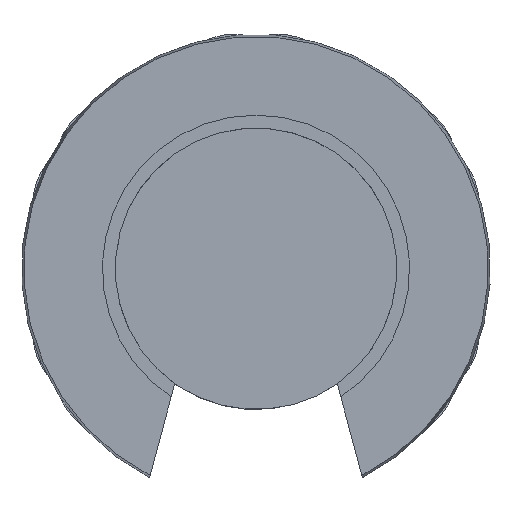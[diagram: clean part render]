
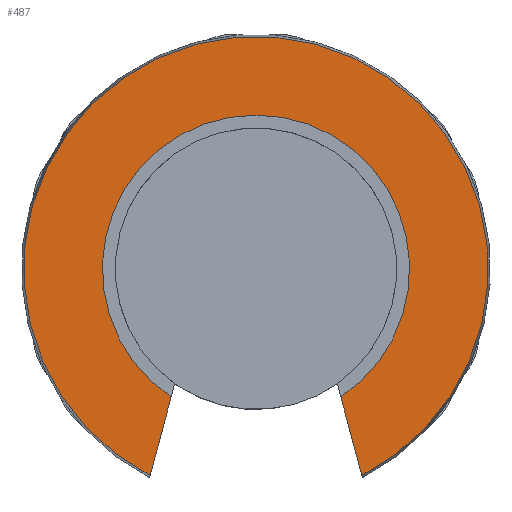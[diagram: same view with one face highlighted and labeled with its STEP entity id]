
A CAD part, front view. The second image highlights one B-rep face of the part: STEP entity #487.
In plain terms, the highlighted planar face has unit normal (0, -1, 0).
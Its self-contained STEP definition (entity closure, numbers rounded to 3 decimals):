
#202=CARTESIAN_POINT('',(7.167,-20.64,-13.997));
#203=VERTEX_POINT('',#202);
#217=CARTESIAN_POINT('',(5.74,-20.64,-8.672));
#218=VERTEX_POINT('',#217);
#219=CARTESIAN_POINT('',(5.74,-20.64,-8.672));
#220=DIRECTION('',(0.259,0.0,-0.966));
#221=VECTOR('',#220,5.512);
#222=LINE('',#219,#221);
#223=EDGE_CURVE('',#218,#203,#222,.T.);
#249=CARTESIAN_POINT('',(-5.74,-20.64,-8.672));
#250=VERTEX_POINT('',#249);
#257=CARTESIAN_POINT('',(-7.167,-20.64,-13.997));
#258=VERTEX_POINT('',#257);
#259=CARTESIAN_POINT('',(-7.167,-20.64,-13.997));
#260=DIRECTION('',(0.259,0.0,0.966));
#261=VECTOR('',#260,5.512);
#262=LINE('',#259,#261);
#263=EDGE_CURVE('',#258,#250,#262,.T.);
#452=CARTESIAN_POINT('',(0.0,-20.64,0.0));
#453=DIRECTION('',(0.0,1.0,0.0));
#454=DIRECTION('',(-1.0,0.0,0.0));
#455=AXIS2_PLACEMENT_3D('',#452,#453,#454);
#456=CIRCLE('',#455,10.4);
#457=EDGE_CURVE('',#250,#218,#456,.T.);
#470=CARTESIAN_POINT('',(-13.063,-20.64,0.0));
#471=DIRECTION('',(0.0,-1.0,0.0));
#472=DIRECTION('',(0.0,0.0,-1.0));
#473=AXIS2_PLACEMENT_3D('',#470,#471,#472);
#474=PLANE('',#473);
#475=ORIENTED_EDGE('',*,*,#223,.T.);
#476=CARTESIAN_POINT('',(0.0,-20.64,0.0));
#477=DIRECTION('',(0.0,1.0,0.0));
#478=DIRECTION('',(-1.0,0.0,0.0));
#479=AXIS2_PLACEMENT_3D('',#476,#477,#478);
#480=CIRCLE('',#479,15.725);
#481=EDGE_CURVE('',#258,#203,#480,.T.);
#482=ORIENTED_EDGE('',*,*,#481,.F.);
#483=ORIENTED_EDGE('',*,*,#263,.T.);
#484=ORIENTED_EDGE('',*,*,#457,.T.);
#485=EDGE_LOOP('',(#475,#482,#483,#484));
#486=FACE_OUTER_BOUND('',#485,.T.);
#487=ADVANCED_FACE('',(#486),#474,.T.);
